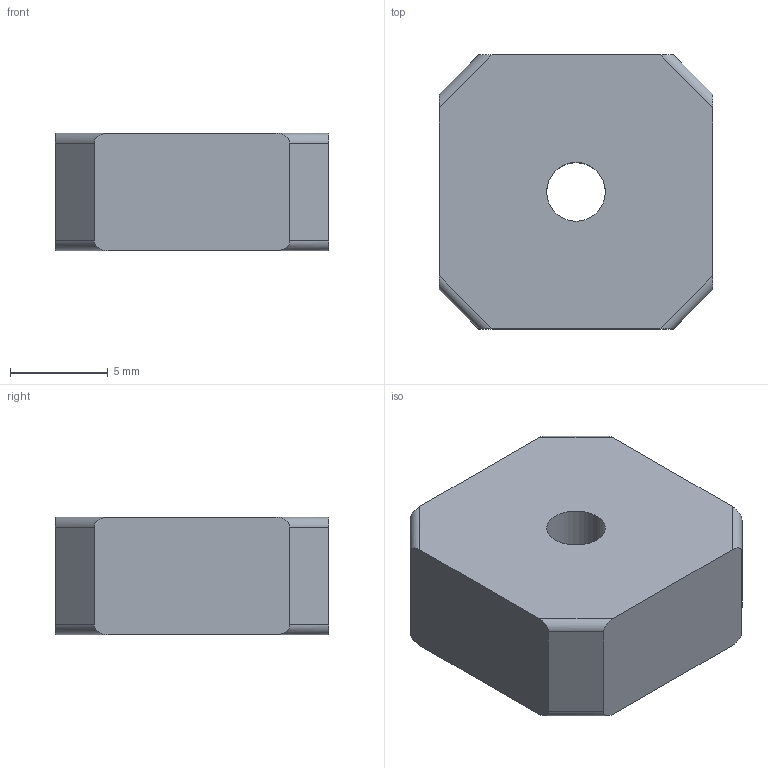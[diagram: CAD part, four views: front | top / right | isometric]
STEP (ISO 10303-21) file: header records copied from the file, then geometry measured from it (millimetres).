
FILE_DESCRIPTION (( 'STEP AP203' ), '1' );
FILE_NAME ('5273.STEP', '2016-04-16T13:23:01', ( '' ), ( '' ), 'SwSTEP 2.0', 'SolidWorks 2014', '' );
FILE_SCHEMA (( 'CONFIG_CONTROL_DESIGN' ));
Length unit declared in the file: millimetre
Products named in the file (1): 5273
Bounding box: 14 x 14 x 6 mm (x, y, z)
Volume: 1084.3 mm3; surface area: 720.5 mm2
Topology: 1 solids, 1 shells, 20 faces, 54 edges, 36 vertices
Faces by surface type: cylinder 10, plane 10
Entity records: 703 total; most frequent: CARTESIAN_POINT 159, ORIENTED_EDGE 108, DIRECTION 84, EDGE_CURVE 54, VERTEX_POINT 36, LINE 34, VECTOR 34, AXIS2_PLACEMENT_3D 25
